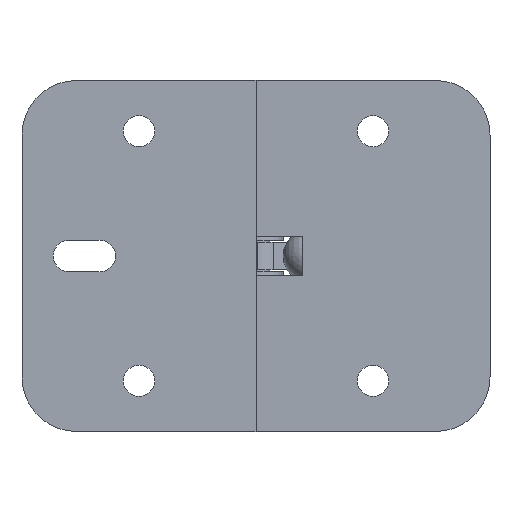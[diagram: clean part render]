
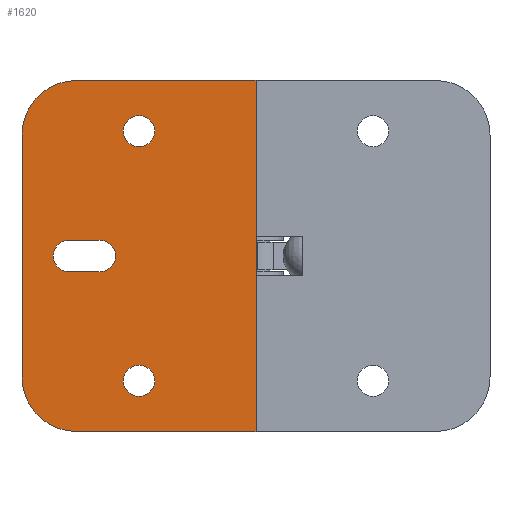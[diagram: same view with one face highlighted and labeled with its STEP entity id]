
A CAD part, front view. The second image highlights one B-rep face of the part: STEP entity #1620.
In plain terms, the highlighted planar face has unit normal (0, -1, 0).
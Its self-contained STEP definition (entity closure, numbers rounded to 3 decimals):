
#55=FACE_BOUND('',#349,.T.);
#56=FACE_BOUND('',#350,.T.);
#57=FACE_BOUND('',#351,.T.);
#128=CIRCLE('',#1691,2.);
#133=CIRCLE('',#1699,2.);
#149=CIRCLE('',#1731,2.);
#151=CIRCLE('',#1735,2.);
#152=CIRCLE('',#1737,7.);
#153=CIRCLE('',#1740,7.);
#244=FACE_OUTER_BOUND('',#348,.T.);
#348=EDGE_LOOP('',(#1191,#1192,#1193,#1194,#1195,#1196));
#349=EDGE_LOOP('',(#1197,#1198,#1199,#1200));
#350=EDGE_LOOP('',(#1201));
#351=EDGE_LOOP('',(#1202));
#445=LINE('',#2371,#567);
#463=LINE('',#2418,#585);
#477=LINE('',#2474,#599);
#485=LINE('',#2504,#607);
#488=LINE('',#2518,#610);
#489=LINE('',#2520,#611);
#567=VECTOR('',#1894,4.);
#585=VECTOR('',#1928,4.);
#599=VECTOR('',#1990,45.);
#607=VECTOR('',#2026,31.);
#610=VECTOR('',#2047,23.);
#611=VECTOR('',#2050,23.);
#686=VERTEX_POINT('',#2363);
#687=VERTEX_POINT('',#2365);
#688=VERTEX_POINT('',#2369);
#709=VERTEX_POINT('',#2414);
#726=VERTEX_POINT('',#2471);
#727=VERTEX_POINT('',#2473);
#730=VERTEX_POINT('',#2488);
#732=VERTEX_POINT('',#2494);
#733=VERTEX_POINT('',#2497);
#734=VERTEX_POINT('',#2499);
#735=VERTEX_POINT('',#2503);
#736=VERTEX_POINT('',#2507);
#836=EDGE_CURVE('',#687,#686,#128,.T.);
#839=EDGE_CURVE('',#686,#688,#445,.T.);
#861=EDGE_CURVE('',#688,#709,#133,.T.);
#862=EDGE_CURVE('',#709,#687,#463,.T.);
#890=EDGE_CURVE('',#727,#726,#477,.T.);
#897=EDGE_CURVE('',#730,#730,#149,.T.);
#899=EDGE_CURVE('',#732,#732,#151,.T.);
#901=EDGE_CURVE('',#733,#734,#152,.T.);
#903=EDGE_CURVE('',#735,#734,#485,.T.);
#905=EDGE_CURVE('',#735,#736,#153,.T.);
#909=EDGE_CURVE('',#727,#733,#488,.T.);
#910=EDGE_CURVE('',#736,#726,#489,.T.);
#1191=ORIENTED_EDGE('',*,*,#901,.F.);
#1192=ORIENTED_EDGE('',*,*,#909,.F.);
#1193=ORIENTED_EDGE('',*,*,#890,.T.);
#1194=ORIENTED_EDGE('',*,*,#910,.F.);
#1195=ORIENTED_EDGE('',*,*,#905,.F.);
#1196=ORIENTED_EDGE('',*,*,#903,.T.);
#1197=ORIENTED_EDGE('',*,*,#861,.T.);
#1198=ORIENTED_EDGE('',*,*,#862,.T.);
#1199=ORIENTED_EDGE('',*,*,#836,.T.);
#1200=ORIENTED_EDGE('',*,*,#839,.T.);
#1201=ORIENTED_EDGE('',*,*,#897,.T.);
#1202=ORIENTED_EDGE('',*,*,#899,.T.);
#1465=PLANE('',#1748);
#1620=ADVANCED_FACE('',(#244,#55,#56,#57),#1465,.T.);
#1691=AXIS2_PLACEMENT_3D('',#2366,#1888,#1889);
#1699=AXIS2_PLACEMENT_3D('',#2416,#1924,#1925);
#1731=AXIS2_PLACEMENT_3D('',#2489,#2008,#2009);
#1735=AXIS2_PLACEMENT_3D('',#2495,#2016,#2017);
#1737=AXIS2_PLACEMENT_3D('',#2500,#2021,#2022);
#1740=AXIS2_PLACEMENT_3D('',#2508,#2030,#2031);
#1748=AXIS2_PLACEMENT_3D('',#2519,#2048,#2049);
#1888=DIRECTION('center_axis',(0.,1.,0.));
#1889=DIRECTION('ref_axis',(0.,0.,-1.));
#1894=DIRECTION('',(-1.,0.,0.));
#1924=DIRECTION('center_axis',(0.,1.,0.));
#1925=DIRECTION('ref_axis',(0.,0.,
1.));
#1928=DIRECTION('',(1.,0.,0.));
#1990=DIRECTION('',(0.,0.,1.));
#2008=DIRECTION('center_axis',(0.,1.,0.));
#2009=DIRECTION('ref_axis',(1.,0.,0.));
#2016=DIRECTION('center_axis',(0.,1.,0.));
#2017=DIRECTION('ref_axis',(1.,0.,0.));
#2021=DIRECTION('center_axis',(0.,1.,0.));
#2022=DIRECTION('ref_axis',(-0.707,0.,-0.707));
#2026=DIRECTION('',(0.,0.,-1.));
#2030=DIRECTION('center_axis',(0.,1.,0.));
#2031=DIRECTION('ref_axis',(-0.707,0.,0.707));
#2047=DIRECTION('',(-1.,0.,0.));
#2048=DIRECTION('center_axis',(0.,-1.,0.));
#2049=DIRECTION('ref_axis',(1.,0.,0.));
#2050=DIRECTION('',(1.,0.,0.));
#2363=CARTESIAN_POINT('',(-20.,0.,-2.));
#2365=CARTESIAN_POINT('',(-20.,0.,2.));
#2366=CARTESIAN_POINT('Origin',(-20.,0.,0.));
#2369=CARTESIAN_POINT('',(-24.,0.,-2.));
#2371=CARTESIAN_POINT('',(-27.,0.,-2.));
#2414=CARTESIAN_POINT('',(-24.,0.,2.));
#2416=CARTESIAN_POINT('Origin',(-24.,0.,0.));
#2418=CARTESIAN_POINT('',(-25.,0.,2.));
#2471=CARTESIAN_POINT('',(0.,0.,22.5));
#2473=CARTESIAN_POINT('',(0.,0.,-22.5));
#2474=CARTESIAN_POINT('',(0.,0.,0.));
#2488=CARTESIAN_POINT('',(-17.,0.,-16.));
#2489=CARTESIAN_POINT('Origin',(-15.,0.,-16.));
#2494=CARTESIAN_POINT('',(-17.,0.,16.));
#2495=CARTESIAN_POINT('Origin',(-15.,0.,16.));
#2497=CARTESIAN_POINT('',(-23.,0.,-22.5));
#2499=CARTESIAN_POINT('',(-30.,0.,-15.5));
#2500=CARTESIAN_POINT('Origin',(-23.,0.,-15.5));
#2503=CARTESIAN_POINT('',(-30.,0.,15.5));
#2504=CARTESIAN_POINT('',(-30.,0.,0.));
#2507=CARTESIAN_POINT('',(-23.,0.,22.5));
#2508=CARTESIAN_POINT('Origin',(-23.,0.,15.5));
#2518=CARTESIAN_POINT('',(0.,0.,-22.5));
#2519=CARTESIAN_POINT('Origin',(-30.,0.,0.));
#2520=CARTESIAN_POINT('',(0.,0.,22.5));
